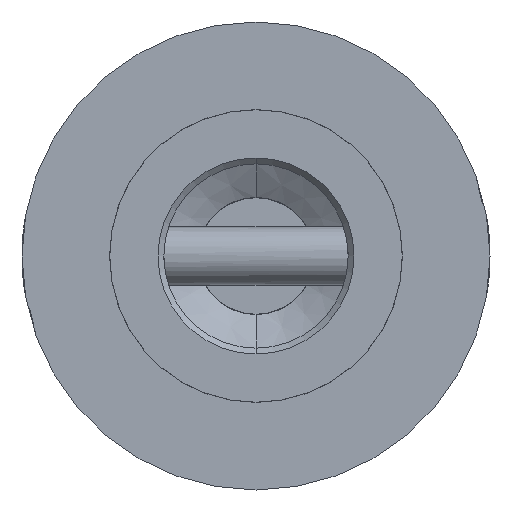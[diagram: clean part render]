
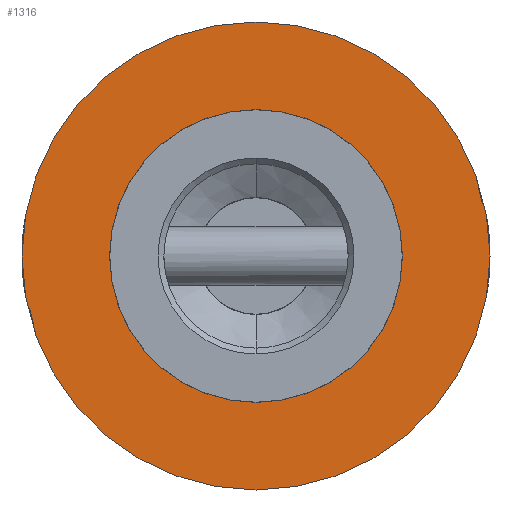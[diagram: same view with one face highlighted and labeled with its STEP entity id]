
A CAD part, front view. The second image highlights one B-rep face of the part: STEP entity #1316.
In plain terms, the highlighted planar face has unit normal (0, -1, 0).
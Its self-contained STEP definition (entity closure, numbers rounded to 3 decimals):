
#98 = CARTESIAN_POINT ( 'NONE',  ( 0., -400., 0. ) ) ;
#112 = DIRECTION ( 'NONE',  ( 0., -1., 0. ) ) ;
#130 = DIRECTION ( 'NONE',  ( 0., 0., -1. ) ) ;
#238 = EDGE_CURVE ( 'NONE', #2532, #2610, #1479, .T. ) ;
#508 = AXIS2_PLACEMENT_3D ( 'NONE', #3362, #3357, #3352 ) ;
#515 = CARTESIAN_POINT ( 'NONE',  ( 0., -400., 8. ) ) ;
#854 = AXIS2_PLACEMENT_3D ( 'NONE', #1231, #1217, #1192 ) ;
#1192 = DIRECTION ( 'NONE',  ( 0., 0., -1. ) ) ;
#1217 = DIRECTION ( 'NONE',  ( 0., -1., 0. ) ) ;
#1231 = CARTESIAN_POINT ( 'NONE',  ( 0., -400., 0. ) ) ;
#1316 = ADVANCED_FACE ( 'NONE', ( #2993, #1709 ), #2732, .T. ) ;
#1377 = DIRECTION ( 'NONE',  ( 0., -1., 0. ) ) ;
#1479 = CIRCLE ( 'NONE', #2087, 5.005 ) ;
#1630 = AXIS2_PLACEMENT_3D ( 'NONE', #2341, #2330, #2319 ) ;
#1646 = EDGE_CURVE ( 'NONE', #2591, #2870, #2642, .T. ) ;
#1709 = FACE_OUTER_BOUND ( 'NONE', #2402, .T. ) ;
#1761 = ORIENTED_EDGE ( 'NONE', *, *, #238, .F. ) ;
#1803 = AXIS2_PLACEMENT_3D ( 'NONE', #2517, #1377, #2487 ) ;
#1848 = EDGE_LOOP ( 'NONE', ( #1761, #2297 ) ) ;
#2042 = CIRCLE ( 'NONE', #508, 8. ) ;
#2081 = CARTESIAN_POINT ( 'NONE',  ( 0., -400., 5.005 ) ) ;
#2087 = AXIS2_PLACEMENT_3D ( 'NONE', #98, #112, #130 ) ;
#2136 = CARTESIAN_POINT ( 'NONE',  ( 0., -400., -8. ) ) ;
#2297 = ORIENTED_EDGE ( 'NONE', *, *, #2530, .F. ) ;
#2319 = DIRECTION ( 'NONE',  ( 0., 0., -1. ) ) ;
#2328 = CIRCLE ( 'NONE', #1630, 5.005 ) ;
#2330 = DIRECTION ( 'NONE',  ( 0., -1., 0. ) ) ;
#2341 = CARTESIAN_POINT ( 'NONE',  ( 0., -400., 0. ) ) ;
#2390 = CARTESIAN_POINT ( 'NONE',  ( 0., -400., -5.005 ) ) ;
#2402 = EDGE_LOOP ( 'NONE', ( #2434, #2949 ) ) ;
#2434 = ORIENTED_EDGE ( 'NONE', *, *, #1646, .T. ) ;
#2487 = DIRECTION ( 'NONE',  ( 0., 0., -1. ) ) ;
#2517 = CARTESIAN_POINT ( 'NONE',  ( 0., -400., 0. ) ) ;
#2530 = EDGE_CURVE ( 'NONE', #2610, #2532, #2328, .T. ) ;
#2532 = VERTEX_POINT ( 'NONE', #2390 ) ;
#2591 = VERTEX_POINT ( 'NONE', #2136 ) ;
#2610 = VERTEX_POINT ( 'NONE', #2081 ) ;
#2642 = CIRCLE ( 'NONE', #854, 8. ) ;
#2732 = PLANE ( 'NONE',  #1803 ) ;
#2870 = VERTEX_POINT ( 'NONE', #515 ) ;
#2949 = ORIENTED_EDGE ( 'NONE', *, *, #3064, .T. ) ;
#2993 = FACE_BOUND ( 'NONE', #1848, .T. ) ;
#3064 = EDGE_CURVE ( 'NONE', #2870, #2591, #2042, .T. ) ;
#3352 = DIRECTION ( 'NONE',  ( 0., 0., -1. ) ) ;
#3357 = DIRECTION ( 'NONE',  ( 0., -1., 0. ) ) ;
#3362 = CARTESIAN_POINT ( 'NONE',  ( 0., -400., 0. ) ) ;
